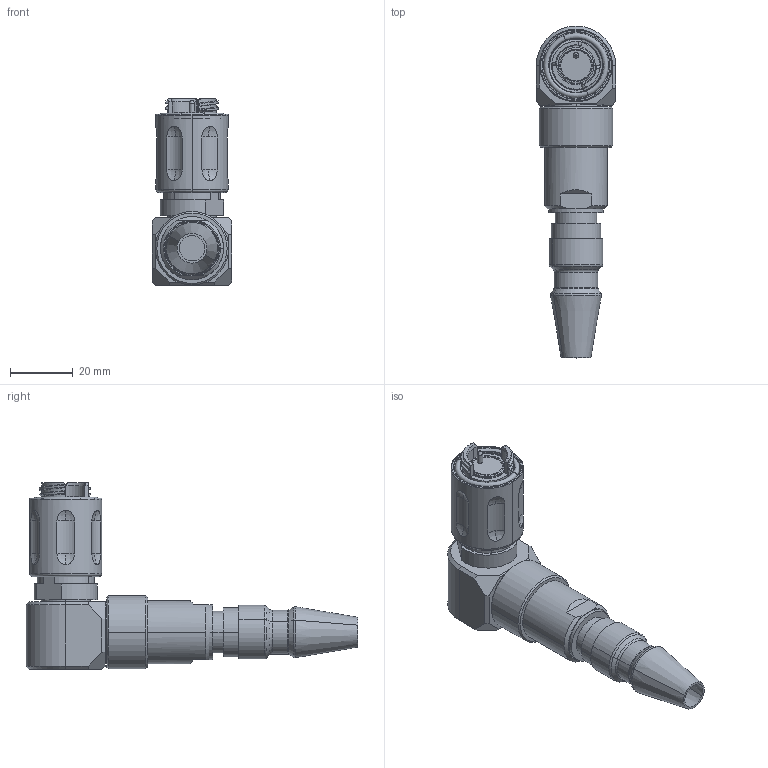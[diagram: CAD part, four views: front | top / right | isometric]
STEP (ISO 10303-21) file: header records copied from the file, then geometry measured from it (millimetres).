
FILE_DESCRIPTION (( 'STEP AP214' ), '1' );
FILE_NAME ('QMICRO90S-PEXX-XXXX-S95.STEP', '2025-05-02T23:41:04', ( '' ), ( '' ), 'SwSTEP 2.0', 'SolidWorks 2024', '' );
FILE_SCHEMA (( 'AUTOMOTIVE_DESIGN' ));
Length unit declared in the file: inch
Products named in the file (1): QMICRO90S-PEXX-XXXX-S95
Bounding box: 25.4 x 106.2 x 59.69 mm (x, y, z)
Volume: 40717.4 mm3; surface area: 15391.4 mm2
Topology: 1 solids, 5 shells, 331 faces, 810 edges, 518 vertices
Faces by surface type: cylinder 118, plane 81, cone 45, bspline 33, torus 30, sphere 24
Entity records: 16382 total; most frequent: CARTESIAN_POINT 8877, ORIENTED_EDGE 1620, DIRECTION 1526, EDGE_CURVE 810, AXIS2_PLACEMENT_3D 622, VERTEX_POINT 518, EDGE_LOOP 364, FACE_OUTER_BOUND 331
